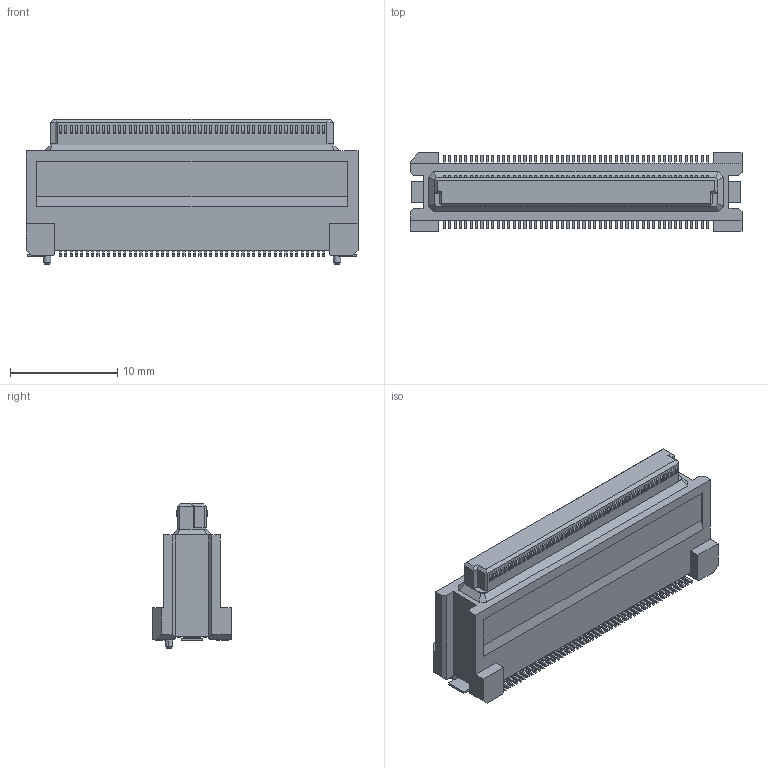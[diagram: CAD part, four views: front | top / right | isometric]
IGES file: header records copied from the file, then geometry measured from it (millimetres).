
Start section: Elysium IGES Interface
Global section: file name: C:\Users\1354\Desktop\DY11-100FS-4.igs; native system: Creo Elements/Direct Modeling 19.0F  14-Feb-2017; preprocessor: Creo Element/Direct IGES_3D V2.2; author: Unknown; organization: Unknown; date: 20171127.163458; units: millimetre
Bounding box: 30.9 x 7.3 x 13.5 mm (x, y, z)
Volume: 1577.3 mm3; surface area: 1436.6 mm2
Topology: 1 solids, 1 shells, 1460 faces, 4013 edges, 2662 vertices
Faces by surface type: bspline 1460
